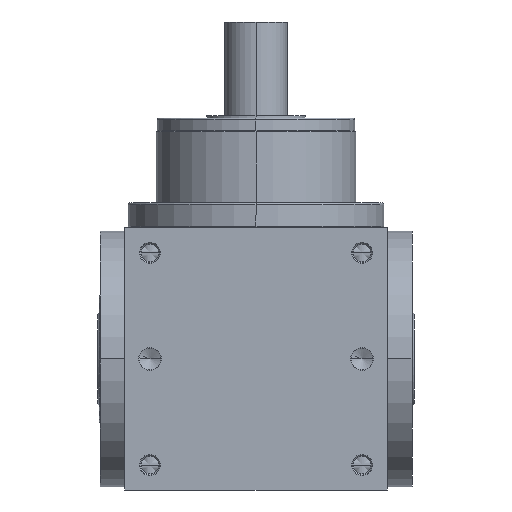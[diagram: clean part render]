
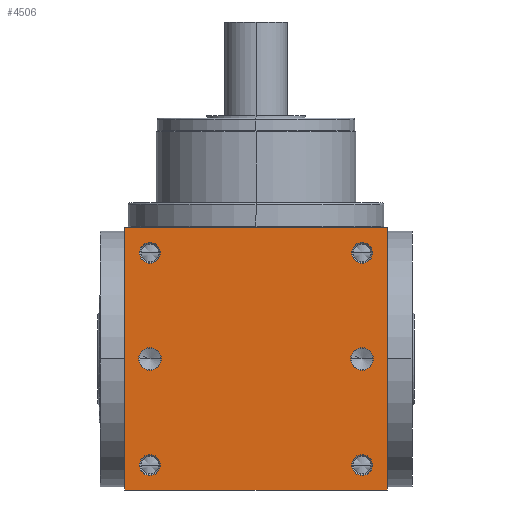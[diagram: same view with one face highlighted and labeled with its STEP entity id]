
A CAD part, front view. The second image highlights one B-rep face of the part: STEP entity #4506.
In plain terms, the highlighted planar face has unit normal (0, -1, 0).
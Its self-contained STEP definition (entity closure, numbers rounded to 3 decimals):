
#5=DIRECTION('',(1.,0.,0.));
#6=VECTOR('',#5,210.);
#7=CARTESIAN_POINT('',(-105.,-105.,-105.));
#8=LINE('',#7,#6);
#155=DIRECTION('',(0.,0.,1.));
#156=VECTOR('',#155,210.);
#157=CARTESIAN_POINT('',(105.,-105.,-105.));
#158=LINE('',#157,#156);
#209=DIRECTION('',(0.,0.,1.));
#210=VECTOR('',#209,210.);
#211=CARTESIAN_POINT('',(-105.,-105.,-105.));
#212=LINE('',#211,#210);
#213=CARTESIAN_POINT('',(85.,-105.,85.));
#214=DIRECTION('',(0.,1.,0.));
#215=DIRECTION('',(-1.,0.,0.));
#216=AXIS2_PLACEMENT_3D('',#213,#214,#215);
#218=CARTESIAN_POINT('',(85.,-105.,85.));
#219=DIRECTION('',(0.,1.,0.));
#220=DIRECTION('',(1.,0.,0.));
#221=AXIS2_PLACEMENT_3D('',#218,#219,#220);
#223=CARTESIAN_POINT('',(-85.,-105.,85.));
#224=DIRECTION('',(0.,1.,0.));
#225=DIRECTION('',(-1.,0.,0.));
#226=AXIS2_PLACEMENT_3D('',#223,#224,#225);
#228=CARTESIAN_POINT('',(-85.,-105.,85.));
#229=DIRECTION('',(0.,1.,0.));
#230=DIRECTION('',(1.,0.,0.));
#231=AXIS2_PLACEMENT_3D('',#228,#229,#230);
#233=CARTESIAN_POINT('',(85.,-105.,-85.));
#234=DIRECTION('',(0.,1.,0.));
#235=DIRECTION('',(-1.,0.,0.));
#236=AXIS2_PLACEMENT_3D('',#233,#234,#235);
#238=CARTESIAN_POINT('',(85.,-105.,-85.));
#239=DIRECTION('',(0.,1.,0.));
#240=DIRECTION('',(1.,0.,0.));
#241=AXIS2_PLACEMENT_3D('',#238,#239,#240);
#243=CARTESIAN_POINT('',(-85.,-105.,-85.));
#244=DIRECTION('',(0.,1.,0.));
#245=DIRECTION('',(-1.,0.,0.));
#246=AXIS2_PLACEMENT_3D('',#243,#244,#245);
#248=CARTESIAN_POINT('',(-85.,-105.,-85.));
#249=DIRECTION('',(0.,1.,0.));
#250=DIRECTION('',(1.,0.,0.));
#251=AXIS2_PLACEMENT_3D('',#248,#249,#250);
#253=CARTESIAN_POINT('',(-85.,-105.,0.));
#254=DIRECTION('',(0.,1.,0.));
#255=DIRECTION('',(1.,0.,0.));
#256=AXIS2_PLACEMENT_3D('',#253,#254,#255);
#258=CARTESIAN_POINT('',(-85.,-105.,0.));
#259=DIRECTION('',(0.,1.,0.));
#260=DIRECTION('',(-1.,0.,0.));
#261=AXIS2_PLACEMENT_3D('',#258,#259,#260);
#263=CARTESIAN_POINT('',(85.,-105.,0.));
#264=DIRECTION('',(0.,1.,0.));
#265=DIRECTION('',(1.,0.,0.));
#266=AXIS2_PLACEMENT_3D('',#263,#264,#265);
#268=CARTESIAN_POINT('',(85.,-105.,0.));
#269=DIRECTION('',(0.,1.,0.));
#270=DIRECTION('',(-1.,0.,0.));
#271=AXIS2_PLACEMENT_3D('',#268,#269,#270);
#285=DIRECTION('',(1.,0.,0.));
#286=VECTOR('',#285,210.);
#287=CARTESIAN_POINT('',(-105.,-105.,105.));
#288=LINE('',#287,#286);
#3632=CARTESIAN_POINT('',(-105.,-105.,-105.));
#3634=VERTEX_POINT('',#3632);
#3635=CARTESIAN_POINT('',(105.,-105.,-105.));
#3636=VERTEX_POINT('',#3635);
#3640=CARTESIAN_POINT('',(-105.,-105.,105.));
#3642=VERTEX_POINT('',#3640);
#3643=CARTESIAN_POINT('',(105.,-105.,105.));
#3644=VERTEX_POINT('',#3643);
#3799=CARTESIAN_POINT('',(76.6,-105.,85.));
#3800=CARTESIAN_POINT('',(93.4,-105.,85.));
#3801=VERTEX_POINT('',#3799);
#3802=VERTEX_POINT('',#3800);
#3807=CARTESIAN_POINT('',(-93.4,-105.,85.));
#3808=CARTESIAN_POINT('',(-76.6,-105.,85.));
#3809=VERTEX_POINT('',#3807);
#3810=VERTEX_POINT('',#3808);
#3815=CARTESIAN_POINT('',(76.6,-105.,-85.));
#3816=CARTESIAN_POINT('',(93.4,-105.,-85.));
#3817=VERTEX_POINT('',#3815);
#3818=VERTEX_POINT('',#3816);
#3823=CARTESIAN_POINT('',(-93.4,-105.,-85.));
#3824=CARTESIAN_POINT('',(-76.6,-105.,-85.));
#3825=VERTEX_POINT('',#3823);
#3826=VERTEX_POINT('',#3824);
#4147=CARTESIAN_POINT('',(-75.95,-105.,0.));
#4148=CARTESIAN_POINT('',(-94.05,-105.,
0.));
#4149=VERTEX_POINT('',#4147);
#4150=VERTEX_POINT('',#4148);
#4155=CARTESIAN_POINT('',(94.05,-105.,0.));
#4156=CARTESIAN_POINT('',(75.95,-105.,0.));
#4157=VERTEX_POINT('',#4155);
#4158=VERTEX_POINT('',#4156);
#4458=CARTESIAN_POINT('',(-105.,-105.,-105.));
#4459=DIRECTION('',(0.,-1.,0.));
#4460=DIRECTION('',(1.,0.,0.));
#4461=AXIS2_PLACEMENT_3D('',#4458,#4459,#4460);
#4462=PLANE('',#4461);
#4463=ORIENTED_EDGE('',*,*,#4298,.F.);
#4464=ORIENTED_EDGE('',*,*,#4341,.T.);
#4466=ORIENTED_EDGE('',*,*,#4465,.T.);
#4467=ORIENTED_EDGE('',*,*,#4420,.F.);
#4468=EDGE_LOOP('',(#4463,#4464,#4466,#4467));
#4469=FACE_OUTER_BOUND('',#4468,.F.);
#4471=ORIENTED_EDGE('',*,*,#4470,.F.);
#4473=ORIENTED_EDGE('',*,*,#4472,.F.);
#4474=EDGE_LOOP('',(#4471,#4473));
#4475=FACE_BOUND('',#4474,.F.);
#4477=ORIENTED_EDGE('',*,*,#4476,.F.);
#4479=ORIENTED_EDGE('',*,*,#4478,.F.);
#4480=EDGE_LOOP('',(#4477,#4479));
#4481=FACE_BOUND('',#4480,.F.);
#4483=ORIENTED_EDGE('',*,*,#4482,.F.);
#4485=ORIENTED_EDGE('',*,*,#4484,.F.);
#4486=EDGE_LOOP('',(#4483,#4485));
#4487=FACE_BOUND('',#4486,.F.);
#4489=ORIENTED_EDGE('',*,*,#4488,.F.);
#4491=ORIENTED_EDGE('',*,*,#4490,.F.);
#4492=EDGE_LOOP('',(#4489,#4491));
#4493=FACE_BOUND('',#4492,.F.);
#4495=ORIENTED_EDGE('',*,*,#4494,.F.);
#4497=ORIENTED_EDGE('',*,*,#4496,.F.);
#4498=EDGE_LOOP('',(#4495,#4497));
#4499=FACE_BOUND('',#4498,.F.);
#4501=ORIENTED_EDGE('',*,*,#4500,.F.);
#4503=ORIENTED_EDGE('',*,*,#4502,.F.);
#4504=EDGE_LOOP('',(#4501,#4503));
#4505=FACE_BOUND('',#4504,.F.);
#4506=ADVANCED_FACE('',(#4469,#4475,#4481,#4487,#4493,#4499,#4505),#4462,.T.);
#217=CIRCLE('',#216,8.4);
#222=CIRCLE('',#221,8.4);
#227=CIRCLE('',#226,8.4);
#232=CIRCLE('',#231,8.4);
#237=CIRCLE('',#236,8.4);
#242=CIRCLE('',#241,8.4);
#247=CIRCLE('',#246,8.4);
#252=CIRCLE('',#251,8.4);
#257=CIRCLE('',#256,9.05);
#262=CIRCLE('',#261,9.05);
#267=CIRCLE('',#266,9.05);
#272=CIRCLE('',#271,9.05);
#4298=EDGE_CURVE('',#3634,#3636,#8,.T.);
#4341=EDGE_CURVE('',#3634,#3642,#212,.T.);
#4420=EDGE_CURVE('',#3636,#3644,#158,.T.);
#4465=EDGE_CURVE('',#3642,#3644,#288,.T.);
#4470=EDGE_CURVE('',#3801,#3802,#217,.T.);
#4472=EDGE_CURVE('',#3802,#3801,#222,.T.);
#4476=EDGE_CURVE('',#3809,#3810,#227,.T.);
#4478=EDGE_CURVE('',#3810,#3809,#232,.T.);
#4482=EDGE_CURVE('',#3817,#3818,#237,.T.);
#4484=EDGE_CURVE('',#3818,#3817,#242,.T.);
#4488=EDGE_CURVE('',#3825,#3826,#247,.T.);
#4490=EDGE_CURVE('',#3826,#3825,#252,.T.);
#4494=EDGE_CURVE('',#4149,#4150,#257,.T.);
#4496=EDGE_CURVE('',#4150,#4149,#262,.T.);
#4500=EDGE_CURVE('',#4157,#4158,#267,.T.);
#4502=EDGE_CURVE('',#4158,#4157,#272,.T.);
